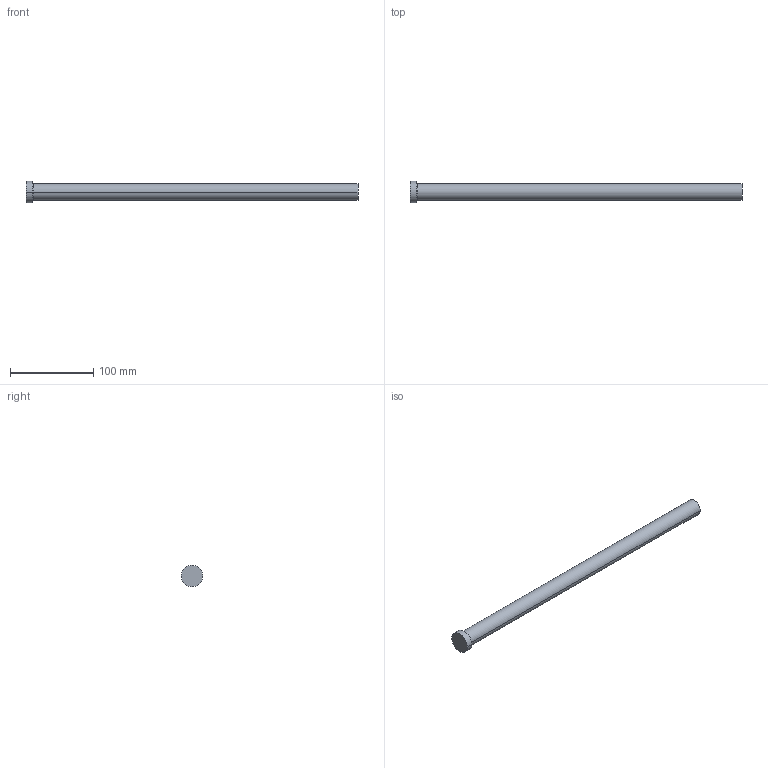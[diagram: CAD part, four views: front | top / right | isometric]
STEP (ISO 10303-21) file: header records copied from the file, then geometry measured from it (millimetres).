
FILE_DESCRIPTION (( 'STEP AP214' ), '1' );
FILE_NAME ('A-20x400.STEP', '2020-05-29T16:25:20', ( 'August' ), ( '' ), 'SwSTEP 2.0', 'SolidWorks 2018', '' );
FILE_SCHEMA (( 'AUTOMOTIVE_DESIGN' ));
Length unit declared in the file: millimetre
Products named in the file (1): A-20x400
Bounding box: 400 x 26 x 26 mm (x, y, z)
Volume: 127411.7 mm3; surface area: 26318.9 mm2
Topology: 1 solids, 1 shells, 9 faces, 16 edges, 10 vertices
Faces by surface type: cylinder 4, plane 3, torus 2
Entity records: 260 total; most frequent: DIRECTION 48, CARTESIAN_POINT 36, ORIENTED_EDGE 32, AXIS2_PLACEMENT_3D 22, EDGE_CURVE 16, CIRCLE 12, VERTEX_POINT 10, EDGE_LOOP 10
